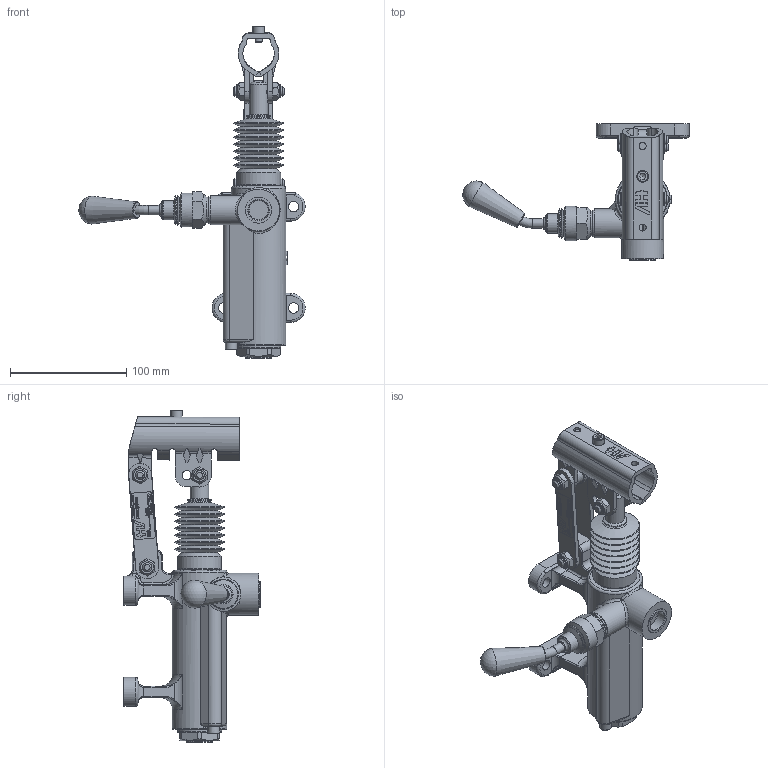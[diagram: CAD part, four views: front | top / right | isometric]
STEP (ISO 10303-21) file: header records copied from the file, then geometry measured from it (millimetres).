
FILE_DESCRIPTION((''),'2;1');
FILE_NAME('G:\HV_HYDRAULIC\AZIENDA_HV_HYDRAULIC\ARCHIVIO_DISEGNI\5_PRODOTTI_FINITI\1_POMPE_MANUALI\6077_PMO_50\6077.0034_PMO_50_m-s_(HV)\6077.0034.stp','2024-03-22T16:18:40',('christian.scardovi'),(''),'Autodesk Inventor 2013','Autodesk Inventor 2013','');
FILE_SCHEMA(('AUTOMOTIVE_DESIGN { 1 0 10303 214 1 1 1 1 }'));
Length unit declared in the file: millimetre
Products named in the file (1): 6077.0034
Bounding box: 194.43 x 117 x 285.13 mm (x, y, z)
Surface area: 106983.7 mm2
Topology: 2 solids, 3 shells, 1179 faces, 3017 edges, 1905 vertices
Faces by surface type: plane 608, bspline 226, cylinder 187, cone 88, torus 64, sphere 5, revolution 1
Full cylindrical faces by diameter (mm): 6 x4, 8 x11, 9 x4, 10 x2, 11.05 x6, 16 x2, 16.468 x1, 17.5 x2, 18 x1, 20 x1, 22 x1, 22.5 x2, 23 x1, 25 x1, 29.5 x1, 36 x1, 38 x1, 38.004 x1
Entity records: 38919 total; most frequent: CARTESIAN_POINT 11227, ORIENTED_EDGE 5716, DIRECTION 4799, EDGE_CURVE 2858, VERTEX_POINT 1887, VECTOR 1640, LINE 1640, AXIS2_PLACEMENT_3D 1579
